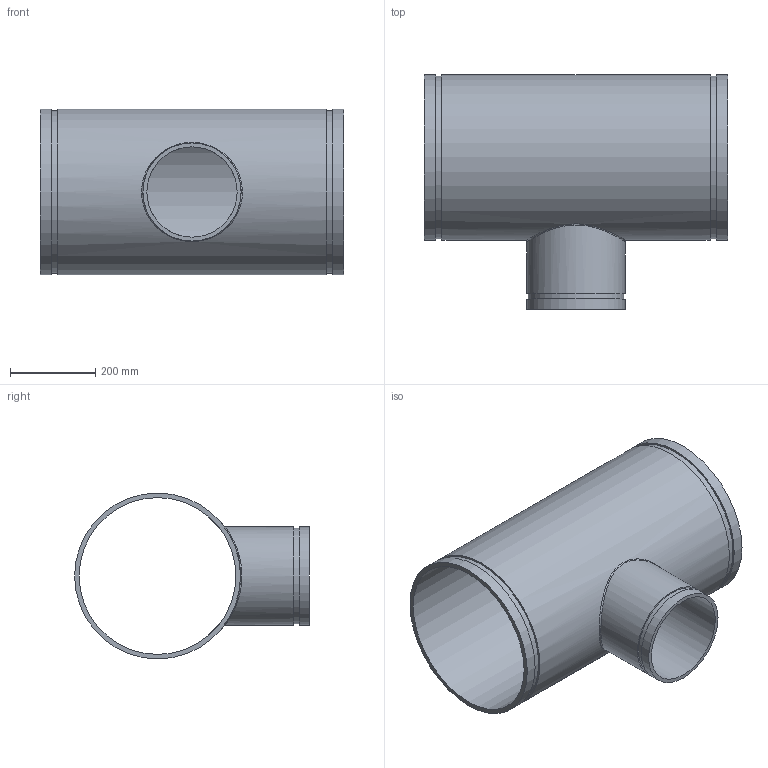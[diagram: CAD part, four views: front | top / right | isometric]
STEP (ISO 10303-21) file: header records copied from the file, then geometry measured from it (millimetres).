
FILE_DESCRIPTION(/* description */ ('VIC REDUCING TEE No 25-C','CAx-IF Rec.Pracs.---Representation and Presentation of Product Manufacturing Information (PMI)---4.0---2014-10-13'),/* implementation_level */ '2;1');
FILE_NAME(/* name */ 'C:\Users\Vjadhav\AppData\Roaming\Autodesk\ApplicationPlugins\Back Up\Victaulic_AWWA_Tee Reducing_No 25-C (DRG)\Victaulic_AWWA_Tee Reducing_No 25-C (DRG)_14.0x08.0 (350x200).stp',/* time_stamp */ '2020-08-18T18:18:07+06:00',/* author */ ('CORINNE GRAY'),/* organization */ ('Victaulic'),/* preprocessor_version */ 'ST-DEVELOPER v17.2',/* originating_system */ 'Autodesk Inventor 2019',/* authorisation */ '');
FILE_SCHEMA (('AP242_MANAGED_MODEL_BASED_3D_ENGINEERING_MIM_LF { 1 0 10303 442 1 1 4 }'));
Length unit declared in the file: inch
Products named in the file (1): 25C-14.0x08.0
Bounding box: 711.2 x 549.91 x 388.62 mm (x, y, z)
Volume: 9555328.9 mm3; surface area: 1918544.6 mm2
Topology: 1 solids, 1 shells, 20 faces, 44 edges, 33 vertices
Faces by surface type: cylinder 10, plane 9, bspline 1
Full cylindrical faces by diameter (mm): 211.582 x1, 223.037 x1, 229.87 x2, 367.284 x1, 380.213 x2, 388.62 x3
Entity records: 1038 total; most frequent: CARTESIAN_POINT 414, DIRECTION 135, ORIENTED_EDGE 90, AXIS2_PLACEMENT_3D 62, EDGE_CURVE 45, VERTEX_POINT 34, EDGE_LOOP 31, CIRCLE 29
